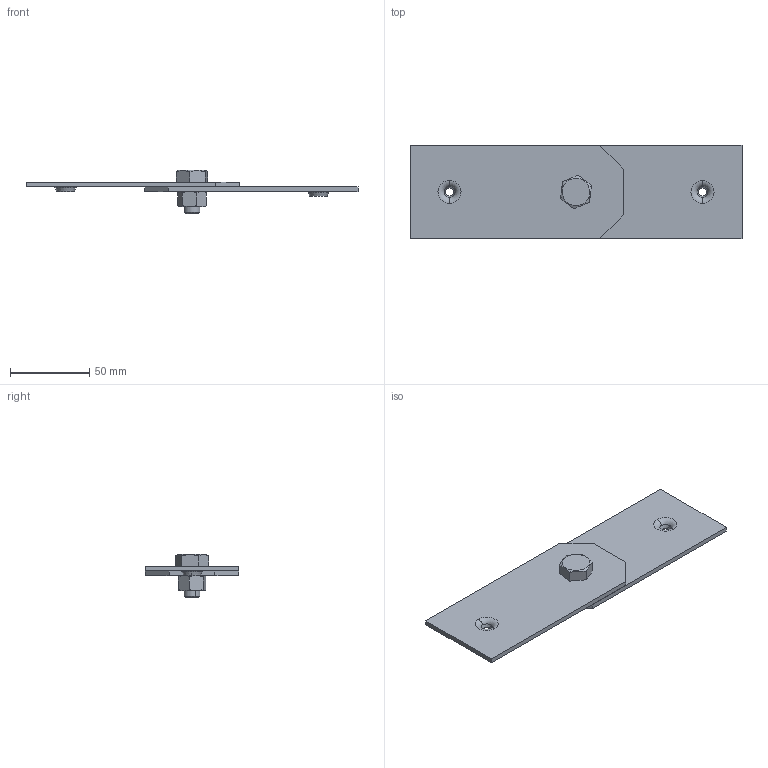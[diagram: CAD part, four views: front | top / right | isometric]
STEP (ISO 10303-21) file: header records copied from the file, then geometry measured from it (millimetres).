
FILE_DESCRIPTION (( 'STEP AP203' ), '1' );
FILE_NAME ('N1 VS.STEP', '2024-09-04T21:57:22', ( '' ), ( '' ), 'SwSTEP 2.0', 'SolidWorks 2023', '' );
FILE_SCHEMA (( 'CONFIG_CONTROL_DESIGN' ));
Length unit declared in the file: millimetre
Products named in the file (4): HexNut_M10; N1VS; hex head bolt_20; N1 VS
Assembly tree (4 placements, depth 2):
  N1 VS
    N1VS  x2
    hex head bolt_20
    HexNut_M10
Bounding box: 210 x 59 x 27.52 mm (x, y, z)
Volume: 51137.7 mm3; surface area: 36167.3 mm2
Topology: 4 solids, 4 shells, 415 faces, 1066 edges, 686 vertices
Faces by surface type: plane 237, bspline 84, cone 54, cylinder 32, torus 8
Entity records: 9831 total; most frequent: CARTESIAN_POINT 3705, ORIENTED_EDGE 1246, DIRECTION 1039, EDGE_CURVE 623, VECTOR 411, LINE 411, VERTEX_POINT 392, AXIS2_PLACEMENT_3D 314
